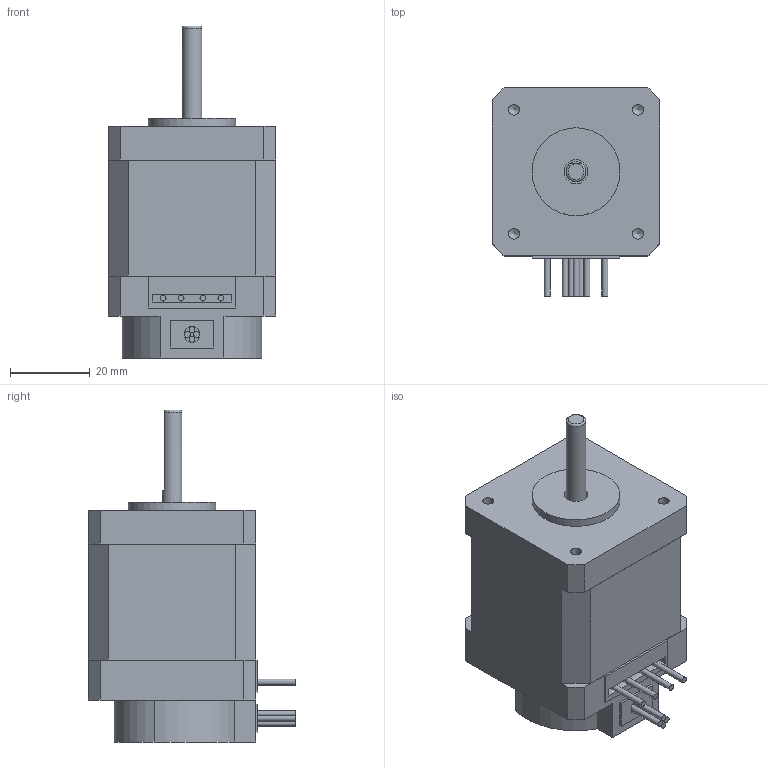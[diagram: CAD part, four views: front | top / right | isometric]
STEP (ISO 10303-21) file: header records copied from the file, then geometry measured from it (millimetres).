
FILE_DESCRIPTION(/* description */ (''),/* implementation_level */ '2;1');
FILE_NAME(/* name */ 'STP-43D3083.stp',/* time_stamp */ '2018-09-03T11:48:50+08:00',/* author */ (''),/* organization */ (''),/* preprocessor_version */ 'ST-DEVELOPER v11',/* originating_system */ 'SIEMENS UGS NX 6.0',/* authorisation */ '');
FILE_SCHEMA (('CONFIG_CONTROL_DESIGN'));
Length unit declared in the file: millimetre
Products named in the file (1): STP-43D3083
Bounding box: 42 x 52 x 83 mm (x, y, z)
Volume: 92244.6 mm3; surface area: 13696 mm2
Topology: 1 solids, 1 shells, 85 faces, 209 edges, 142 vertices
Faces by surface type: plane 61, cylinder 19, cone 4, torus 1
Full cylindrical faces by diameter (mm): 1.5 x8, 2.7 x4, 4 x1, 5 x1, 6 x1, 22 x1
Entity records: 2376 total; most frequent: CARTESIAN_POINT 418, DIRECTION 381, ORIENTED_EDGE 342, EDGE_CURVE 171, LINE 129, VECTOR 129, VERTEX_POINT 128, AXIS2_PLACEMENT_3D 126
